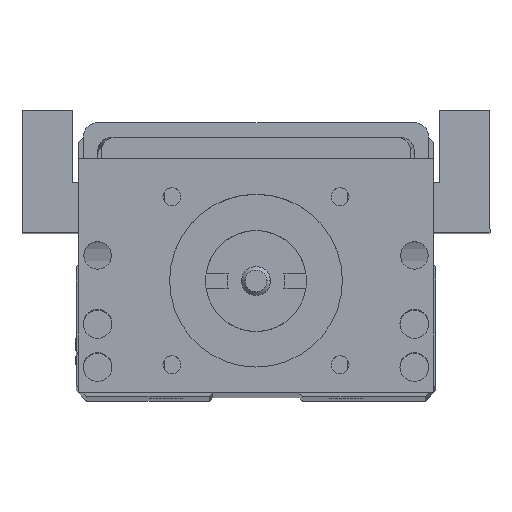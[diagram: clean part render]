
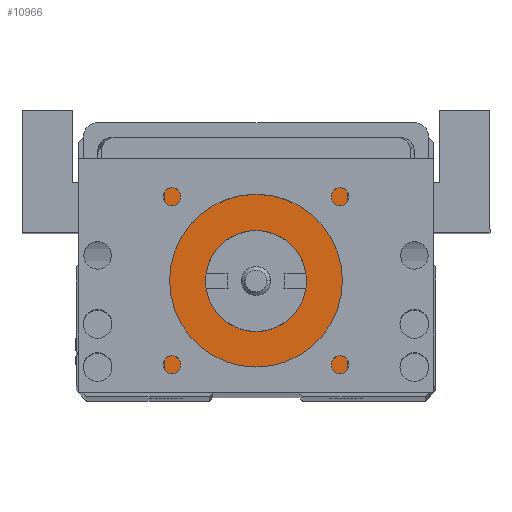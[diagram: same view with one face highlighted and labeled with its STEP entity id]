
A CAD part, top view. The second image highlights one B-rep face of the part: STEP entity #10966.
In plain terms, the highlighted planar face has unit normal (0, 0, 1).
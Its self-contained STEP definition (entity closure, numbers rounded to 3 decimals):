
#1871 = VERTEX_POINT ( 'NONE', #5875 ) ;
#1933 = EDGE_CURVE ( 'NONE', #1871, #1945, #6049, .T. ) ;
#1945 = VERTEX_POINT ( 'NONE', #6050 ) ;
#5875 = CARTESIAN_POINT ( 'NONE',  ( 7., 16., 211.5 ) ) ;
#6003 = CARTESIAN_POINT ( 'NONE',  ( 0., 16., 211.5 ) ) ;
#6035 = DIRECTION ( 'NONE',  ( -1., 0., 0. ) ) ;
#6036 = DIRECTION ( 'NONE',  ( 0., 0., 1. ) ) ;
#6042 = AXIS2_PLACEMENT_3D ( 'NONE', #6003, #6036, #6035 ) ;
#6049 = CIRCLE ( 'NONE', #6042, 7. ) ;
#6050 = CARTESIAN_POINT ( 'NONE',  ( -7., 16., 211.5 ) ) ;
#9493 = DIRECTION ( 'NONE',  ( 0., 0., -1. ) ) ;
#9498 = FACE_OUTER_BOUND ( 'NONE', #10941, .T. ) ;
#9499 = FACE_BOUND ( 'NONE', #10980, .T. ) ;
#9506 = CARTESIAN_POINT ( 'NONE',  ( 12.7, 33., 211.5 ) ) ;
#9517 = CARTESIAN_POINT ( 'NONE',  ( -12.7, 0.5, 211.5 ) ) ;
#9527 = DIRECTION ( 'NONE',  ( -1., 0., 0. ) ) ;
#9528 = DIRECTION ( 'NONE',  ( 0., 0., 1. ) ) ;
#9529 = CARTESIAN_POINT ( 'NONE',  ( 0., 16., 211.5 ) ) ;
#9530 = AXIS2_PLACEMENT_3D ( 'NONE', #9529, #9528, #9527 ) ;
#9532 = DIRECTION ( 'NONE',  ( -1., 0., 0. ) ) ;
#9533 = CIRCLE ( 'NONE', #9530, 7. ) ;
#9534 = CARTESIAN_POINT ( 'NONE',  ( 12.7, 0.5, 211.5 ) ) ;
#9535 = DIRECTION ( 'NONE',  ( 0., 1., 0. ) ) ;
#9536 = PLANE ( 'NONE',  #9542 ) ;
#9537 = CARTESIAN_POINT ( 'NONE',  ( 12.7, 33., 211.5 ) ) ;
#9538 = LINE ( 'NONE', #9537, #9541 ) ;
#9539 = DIRECTION ( 'NONE',  ( -1., 0., 0. ) ) ;
#9540 = VECTOR ( 'NONE', #9539, 1000. ) ;
#9541 = VECTOR ( 'NONE', #9535, 1000. ) ;
#9542 = AXIS2_PLACEMENT_3D ( 'NONE', #9544, #9493, #9532 ) ;
#9543 = CARTESIAN_POINT ( 'NONE',  ( -12.7, 33., 211.5 ) ) ;
#9544 = CARTESIAN_POINT ( 'NONE',  ( -14.7, 0., 211.5 ) ) ;
#9545 = CARTESIAN_POINT ( 'NONE',  ( -6.008, 0.5, 211.5 ) ) ;
#9546 = LINE ( 'NONE', #9545, #9540 ) ;
#9556 = DIRECTION ( 'NONE',  ( -1., 0., 0. ) ) ;
#9557 = VECTOR ( 'NONE', #9556, 1000. ) ;
#9558 = CARTESIAN_POINT ( 'NONE',  ( -14.7, 33., 211.5 ) ) ;
#9559 = LINE ( 'NONE', #9558, #9557 ) ;
#9569 = DIRECTION ( 'NONE',  ( 0., -1., 0. ) ) ;
#9570 = VECTOR ( 'NONE', #9569, 1000. ) ;
#9571 = CARTESIAN_POINT ( 'NONE',  ( -12.7, 0.5, 211.5 ) ) ;
#9572 = LINE ( 'NONE', #9571, #9570 ) ;
#10941 = EDGE_LOOP ( 'NONE', ( #10959, #10987, #10950, #10982 ) ) ;
#10943 = VERTEX_POINT ( 'NONE', #9517 ) ;
#10950 = ORIENTED_EDGE ( 'NONE', *, *, #10988, .T. ) ;
#10955 = VERTEX_POINT ( 'NONE', #9506 ) ;
#10959 = ORIENTED_EDGE ( 'NONE', *, *, #10961, .F. ) ;
#10961 = EDGE_CURVE ( 'NONE', #10968, #10943, #9546, .T. ) ;
#10962 = VERTEX_POINT ( 'NONE', #9543 ) ;
#10963 = EDGE_CURVE ( 'NONE', #10968, #10955, #9538, .T. ) ;
#10966 = ADVANCED_FACE ( 'NONE', ( #9498, #9499 ), #9536, .F. ) ;
#10968 = VERTEX_POINT ( 'NONE', #9534 ) ;
#10971 = EDGE_CURVE ( 'NONE', #1945, #1871, #9533, .T. ) ;
#10978 = EDGE_CURVE ( 'NONE', #10962, #10943, #9572, .T. ) ;
#10980 = EDGE_LOOP ( 'NONE', ( #10981, #10994 ) ) ;
#10981 = ORIENTED_EDGE ( 'NONE', *, *, #10971, .F. ) ;
#10982 = ORIENTED_EDGE ( 'NONE', *, *, #10978, .T. ) ;
#10987 = ORIENTED_EDGE ( 'NONE', *, *, #10963, .T. ) ;
#10988 = EDGE_CURVE ( 'NONE', #10955, #10962, #9559, .T. ) ;
#10994 = ORIENTED_EDGE ( 'NONE', *, *, #1933, .F. ) ;
